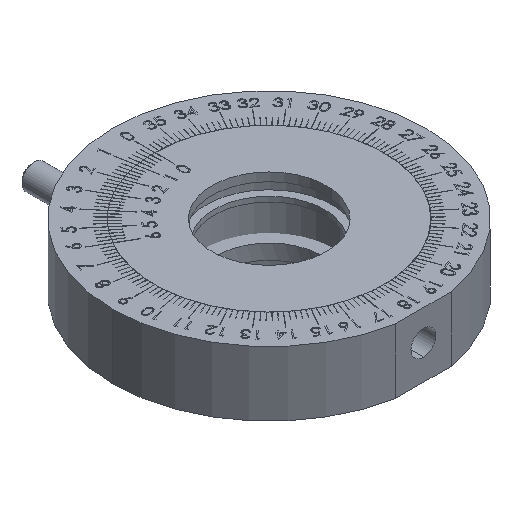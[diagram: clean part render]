
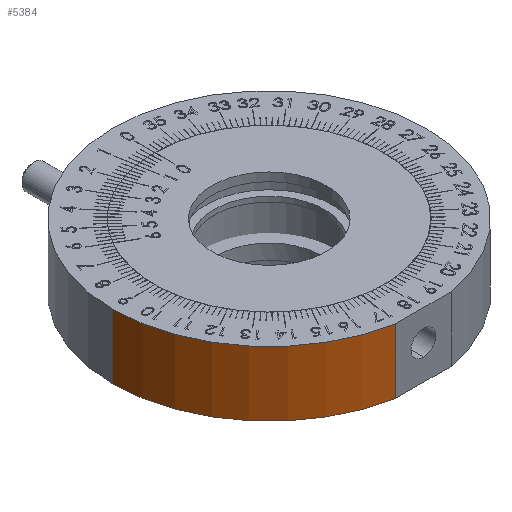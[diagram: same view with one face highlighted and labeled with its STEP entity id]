
A CAD part, isometric view. The second image highlights one B-rep face of the part: STEP entity #5384.
In plain terms, the highlighted cylindrical face has radius 31.5 mm (diameter 63 mm), a partial arc.
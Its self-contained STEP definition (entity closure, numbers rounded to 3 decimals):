
#626 = EDGE_LOOP ( 'NONE', ( #28662, #28701, #28718, #28711 ) ) ;
#3162 = CIRCLE ( 'NONE', #21764, 31.5 ) ;
#3183 = VECTOR ( 'NONE', #4634, 1000. ) ;
#3184 = VECTOR ( 'NONE', #4540, 1000. ) ;
#3189 = LINE ( 'NONE', #4548, #3184 ) ;
#3194 = LINE ( 'NONE', #4623, #3183 ) ;
#3198 = CIRCLE ( 'NONE', #21815, 31.5 ) ;
#3374 = CYLINDRICAL_SURFACE ( 'NONE', #6367, 31.5 ) ;
#3404 = FACE_OUTER_BOUND ( 'NONE', #626, .T. ) ;
#4540 = DIRECTION ( 'NONE',  ( 0., 0., -1. ) ) ;
#4548 = CARTESIAN_POINT ( 'NONE',  ( -19.315, 15.226, 6.5 ) ) ;
#4570 = DIRECTION ( 'NONE',  ( 0., 0., 1. ) ) ;
#4573 = DIRECTION ( 'NONE',  ( 1., 0., 0. ) ) ;
#4576 = CARTESIAN_POINT ( 'NONE',  ( 12.185, 15.226, 6.5 ) ) ;
#4589 = DIRECTION ( 'NONE',  ( 0., 0., 1. ) ) ;
#4590 = DIRECTION ( 'NONE',  ( 1., 0., 0. ) ) ;
#4615 = CARTESIAN_POINT ( 'NONE',  ( 12.185, 15.226, -6.5 ) ) ;
#4623 = CARTESIAN_POINT ( 'NONE',  ( 6.594, -15.774, 6.5 ) ) ;
#4634 = DIRECTION ( 'NONE',  ( 0., 0., 1. ) ) ;
#4765 = EDGE_CURVE ( 'NONE', #28447, #28438, #3189, .T. ) ;
#4768 = EDGE_CURVE ( 'NONE', #28447, #28439, #3162, .T. ) ;
#4769 = EDGE_CURVE ( 'NONE', #28438, #28444, #3198, .T. ) ;
#4775 = EDGE_CURVE ( 'NONE', #28444, #28439, #3194, .T. ) ;
#5384 = ADVANCED_FACE ( 'NONE', ( #3404 ), #3374, .T. ) ;
#6367 = AXIS2_PLACEMENT_3D ( 'NONE', #7290, #7293, #7303 ) ;
#7290 = CARTESIAN_POINT ( 'NONE',  ( 12.185, 15.226, 6.5 ) ) ;
#7293 = DIRECTION ( 'NONE',  ( 0., 0., -1. ) ) ;
#7303 = DIRECTION ( 'NONE',  ( -1., 0., 0. ) ) ;
#21764 = AXIS2_PLACEMENT_3D ( 'NONE', #4576, #4589, #4573 ) ;
#21815 = AXIS2_PLACEMENT_3D ( 'NONE', #4615, #4570, #4590 ) ;
#27348 = CARTESIAN_POINT ( 'NONE',  ( -19.315, 15.226, -6.5 ) ) ;
#27392 = CARTESIAN_POINT ( 'NONE',  ( 6.594, -15.774, -6.5 ) ) ;
#27414 = CARTESIAN_POINT ( 'NONE',  ( -19.315, 15.226, 6.5 ) ) ;
#27420 = CARTESIAN_POINT ( 'NONE',  ( 6.594, -15.774, 6.5 ) ) ;
#28438 = VERTEX_POINT ( 'NONE', #27348 ) ;
#28439 = VERTEX_POINT ( 'NONE', #27420 ) ;
#28444 = VERTEX_POINT ( 'NONE', #27392 ) ;
#28447 = VERTEX_POINT ( 'NONE', #27414 ) ;
#28662 = ORIENTED_EDGE ( 'NONE', *, *, #4768, .F. ) ;
#28701 = ORIENTED_EDGE ( 'NONE', *, *, #4765, .T. ) ;
#28711 = ORIENTED_EDGE ( 'NONE', *, *, #4775, .T. ) ;
#28718 = ORIENTED_EDGE ( 'NONE', *, *, #4769, .T. ) ;
